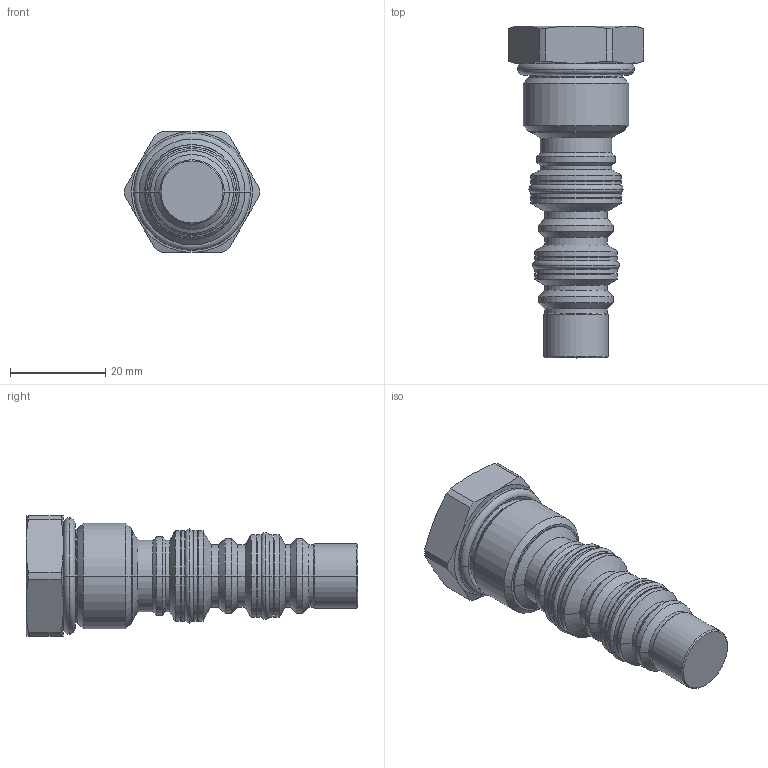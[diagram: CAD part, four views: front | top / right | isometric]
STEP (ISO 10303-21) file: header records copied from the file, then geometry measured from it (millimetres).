
FILE_DESCRIPTION((''),'2;1');
FILE_NAME('5241308_SW0003','2009-02-02T',('jcs'),(''),'PRO/ENGINEER BY PARAMETRIC TECHNOLOGY CORPORATION, 2008010','PRO/ENGINEER BY PARAMETRIC TECHNOLOGY CORPORATION, 2008010','');
FILE_SCHEMA(('CONFIG_CONTROL_DESIGN'));
Length unit declared in the file: inch
Products named in the file (1): 5241308_SW0003
Bounding box: 28.44 x 69.75 x 25.34 mm (x, y, z)
Volume: 18963.2 mm3; surface area: 7647.5 mm2
Topology: 5 solids, 5 shells, 176 faces, 372 edges, 212 vertices
Faces by surface type: cylinder 60, cone 42, torus 28, revolution 24, plane 22
Entity records: 5464 total; most frequent: CARTESIAN_POINT 1584, DIRECTION 868, ORIENTED_EDGE 744, EDGE_CURVE 372, AXIS2_PLACEMENT_3D 368, CIRCLE 216, VERTEX_POINT 212, EDGE_LOOP 190
